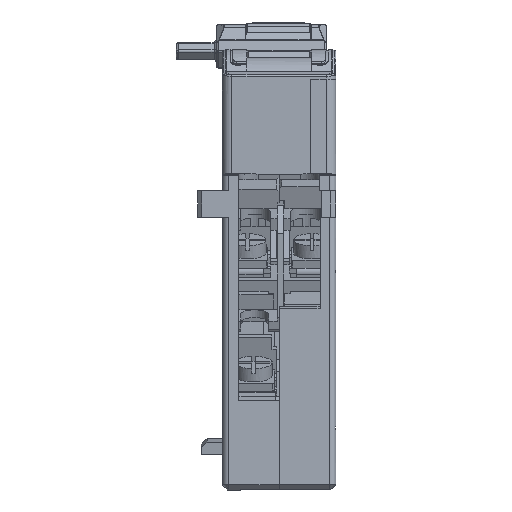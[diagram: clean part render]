
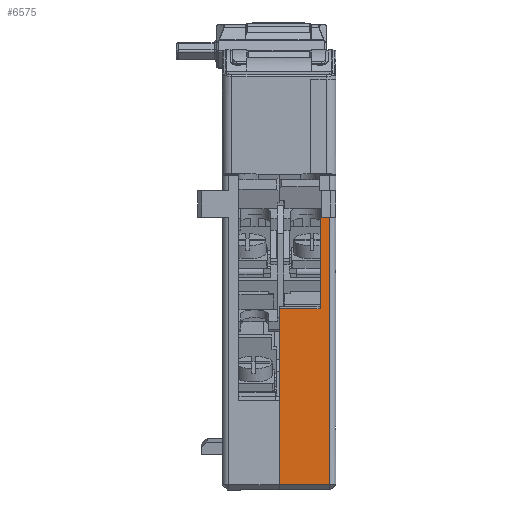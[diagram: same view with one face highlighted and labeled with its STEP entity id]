
A CAD part, front view. The second image highlights one B-rep face of the part: STEP entity #6575.
In plain terms, the highlighted planar face has unit normal (0, -1, 0) as drawn and (1, 0, 0) by its records, which use the part's own axes.
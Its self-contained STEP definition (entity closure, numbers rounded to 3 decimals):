
#573 = VECTOR ( 'NONE', #9743, 1000. ) ;
#2014 = CARTESIAN_POINT ( 'NONE',  ( 82.715, 0.8, -31. ) ) ;
#2403 = CARTESIAN_POINT ( 'NONE',  ( 82.715, 18.213, -23.1 ) ) ;
#2779 = EDGE_CURVE ( 'NONE', #50905, #65530, #12115, .T. ) ;
#3254 = CARTESIAN_POINT ( 'NONE',  ( 82.715, 14.016, -23.1 ) ) ;
#3841 = EDGE_CURVE ( 'NONE', #57583, #25696, #55112, .T. ) ;
#3910 = LINE ( 'NONE', #14204, #45578 ) ;
#6575 = ADVANCED_FACE ( 'NONE', ( #53716 ), #22913, .F. ) ;
#7707 = EDGE_LOOP ( 'NONE', ( #14397, #60711, #55996, #38412, #47940, #34664 ) ) ;
#7800 = CARTESIAN_POINT ( 'NONE',  ( 82.715, 0.8, -31. ) ) ;
#8882 = LINE ( 'NONE', #3254, #54567 ) ;
#9743 = DIRECTION ( 'NONE',  ( 0., 0., -1. ) ) ;
#12115 = LINE ( 'NONE', #32609, #35257 ) ;
#12865 = EDGE_CURVE ( 'NONE', #65530, #16297, #33451, .T. ) ;
#13441 = DIRECTION ( 'NONE',  ( 0., 0., 1. ) ) ;
#14204 = CARTESIAN_POINT ( 'NONE',  ( 82.715, 42.7, -29.506 ) ) ;
#14397 = ORIENTED_EDGE ( 'NONE', *, *, #21246, .T. ) ;
#15887 = VECTOR ( 'NONE', #48362, 1000. ) ;
#16297 = VERTEX_POINT ( 'NONE', #46173 ) ;
#21246 = EDGE_CURVE ( 'NONE', #50905, #31243, #53499, .T. ) ;
#22913 = PLANE ( 'NONE',  #29434 ) ;
#24429 = DIRECTION ( 'NONE',  ( 0., -1., 0. ) ) ;
#24660 = CARTESIAN_POINT ( 'NONE',  ( 82.715, 28.376, -23.1 ) ) ;
#25696 = VERTEX_POINT ( 'NONE', #60895 ) ;
#29405 = DIRECTION ( 'NONE',  ( 0., -1., 0. ) ) ;
#29434 = AXIS2_PLACEMENT_3D ( 'NONE', #2403, #58041, #53396 ) ;
#31243 = VERTEX_POINT ( 'NONE', #48417 ) ;
#31621 = DIRECTION ( 'NONE',  ( 0., -1., 0. ) ) ;
#32609 = CARTESIAN_POINT ( 'NONE',  ( 82.715, 42.7, -31. ) ) ;
#32618 = CARTESIAN_POINT ( 'NONE',  ( 82.715, 42.7, -31. ) ) ;
#33451 = LINE ( 'NONE', #2014, #15887 ) ;
#34664 = ORIENTED_EDGE ( 'NONE', *, *, #2779, .F. ) ;
#35257 = VECTOR ( 'NONE', #31621, 1000. ) ;
#37918 = CARTESIAN_POINT ( 'NONE',  ( 82.715, 28.376, -23.1 ) ) ;
#38412 = ORIENTED_EDGE ( 'NONE', *, *, #63117, .T. ) ;
#45578 = VECTOR ( 'NONE', #29405, 1000. ) ;
#46173 = CARTESIAN_POINT ( 'NONE',  ( 82.715, 0.8, -23.1 ) ) ;
#47940 = ORIENTED_EDGE ( 'NONE', *, *, #12865, .F. ) ;
#48291 = VECTOR ( 'NONE', #13441, 1000. ) ;
#48362 = DIRECTION ( 'NONE',  ( 0., 0., 1. ) ) ;
#48417 = CARTESIAN_POINT ( 'NONE',  ( 82.715, 42.7, -29.506 ) ) ;
#50905 = VERTEX_POINT ( 'NONE', #53309 ) ;
#53309 = CARTESIAN_POINT ( 'NONE',  ( 82.715, 42.7, -31. ) ) ;
#53396 = DIRECTION ( 'NONE',  ( 0., 0., 1. ) ) ;
#53499 = LINE ( 'NONE', #32618, #48291 ) ;
#53716 = FACE_OUTER_BOUND ( 'NONE', #7707, .T. ) ;
#54567 = VECTOR ( 'NONE', #24429, 1000. ) ;
#55112 = LINE ( 'NONE', #24660, #573 ) ;
#55996 = ORIENTED_EDGE ( 'NONE', *, *, #3841, .F. ) ;
#56117 = EDGE_CURVE ( 'NONE', #31243, #25696, #3910, .T. ) ;
#57583 = VERTEX_POINT ( 'NONE', #37918 ) ;
#58041 = DIRECTION ( 'NONE',  ( -1., 0., 0. ) ) ;
#60711 = ORIENTED_EDGE ( 'NONE', *, *, #56117, .T. ) ;
#60895 = CARTESIAN_POINT ( 'NONE',  ( 82.715, 28.376, -29.506 ) ) ;
#63117 = EDGE_CURVE ( 'NONE', #57583, #16297, #8882, .T. ) ;
#65530 = VERTEX_POINT ( 'NONE', #7800 ) ;
